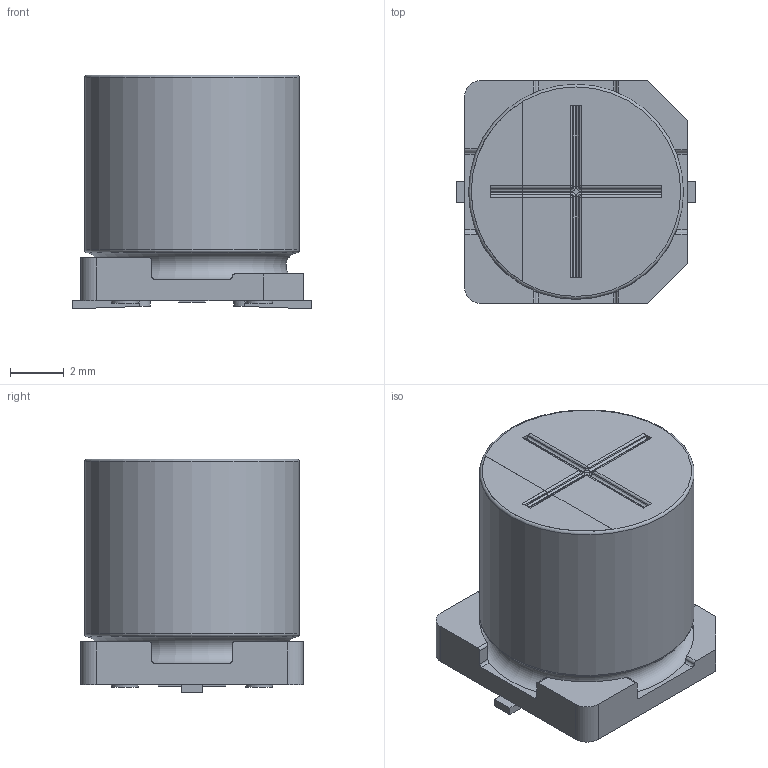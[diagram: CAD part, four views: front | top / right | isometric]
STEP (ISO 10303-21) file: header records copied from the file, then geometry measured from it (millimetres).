
FILE_DESCRIPTION(/* description */ (''),/* implementation_level */ '2;1');
FILE_NAME(/* name */ '8x8.7_Chip.stp',/* time_stamp */ '2017-09-04T17:46:54+09:00',/* author */ (''),/* organization */ (''),/* preprocessor_version */ 'ST-DEVELOPER v16',/* originating_system */ 'SIEMENS PLM Software NX 11.0',/* authorisation */ '');
FILE_SCHEMA (('AUTOMOTIVE_DESIGN { 1 0 10303 214 3 1 1 1 }'));
Length unit declared in the file: millimetre
Products named in the file (1): 8x8.7_Chip_0
Bounding box: 8.9 x 8.3 x 8.7 mm (x, y, z)
Volume: 434.2 mm3; surface area: 510.6 mm2
Topology: 5 solids, 5 shells, 132 faces, 330 edges, 210 vertices
Faces by surface type: plane 61, cylinder 60, sphere 4, bspline 4, torus 3
Full cylindrical faces by diameter (mm): 1 x4, 8 x1
Entity records: 4212 total; most frequent: CARTESIAN_POINT 919, DIRECTION 670, ORIENTED_EDGE 634, EDGE_CURVE 317, AXIS2_PLACEMENT_3D 240, VERTEX_POINT 209, LINE 190, VECTOR 190
